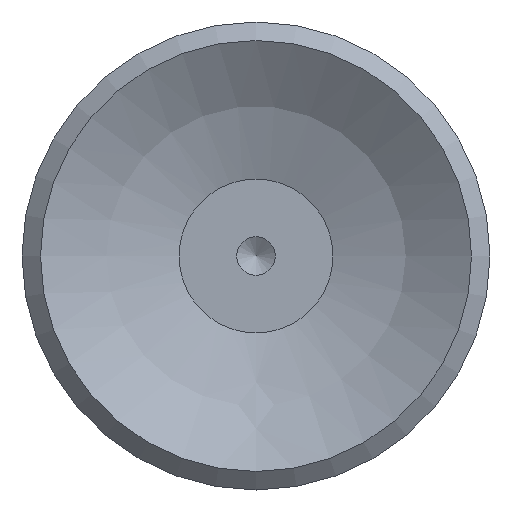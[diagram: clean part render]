
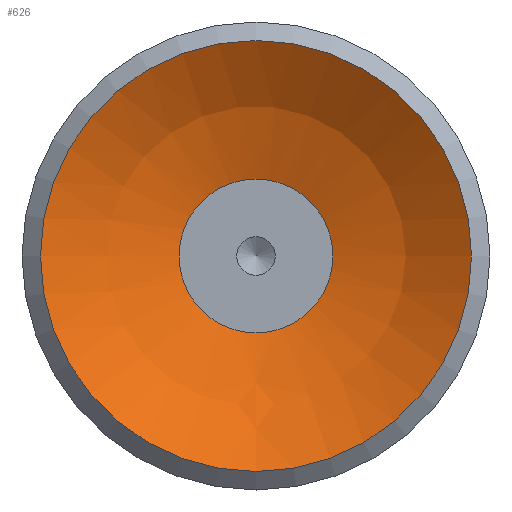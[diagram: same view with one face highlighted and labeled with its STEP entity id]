
A CAD part, front view. The second image highlights one B-rep face of the part: STEP entity #626.
In plain terms, the highlighted spherical face has radius 11.5 mm.
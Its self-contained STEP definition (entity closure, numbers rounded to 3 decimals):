
#626=ADVANCED_FACE('',(#1078,#1079),#1080,.F.);
#1078=FACE_OUTER_BOUND('',#1596,.T.);
#1079=FACE_OUTER_BOUND('',#1597,.T.);
#1080=SPHERICAL_SURFACE('',#1598,11.5);
#1596=EDGE_LOOP('',(#2870));
#1597=EDGE_LOOP('',(#2871));
#1598=AXIS2_PLACEMENT_3D('',#2872,#2873,#2874);
#2870=ORIENTED_EDGE('',*,*,#3550,.T.);
#2871=ORIENTED_EDGE('',*,*,#3551,.F.);
#2872=CARTESIAN_POINT('',(0.001,9.494,-22.735));
#2873=DIRECTION('',(0.0,0.,-1.0));
#2874=DIRECTION('',(1.0,0.0,0.0));
#3550=EDGE_CURVE('',#4236,#4236,#4237,.T.);
#3551=EDGE_CURVE('',#4238,#4238,#4239,.T.);
#4236=VERTEX_POINT('',#5989);
#4237=CIRCLE('',#5990,7.0);
#4238=VERTEX_POINT('',#5991);
#4239=CIRCLE('',#5992,2.5);
#5989=CARTESIAN_POINT('',(0.001,16.494,-13.611));
#5990=AXIS2_PLACEMENT_3D('',#6700,#6701,#6702);
#5991=CARTESIAN_POINT('',(0.001,11.994,-11.51));
#5992=AXIS2_PLACEMENT_3D('',#6703,#6704,#6705);
#6700=CARTESIAN_POINT('',(0.001,9.494,-13.611));
#6701=DIRECTION('',(0.0,0.,-1.0));
#6702=DIRECTION('',(0.0,1.0,0.));
#6703=CARTESIAN_POINT('',(0.001,9.494,-11.51));
#6704=DIRECTION('',(0.0,0.,-1.0));
#6705=DIRECTION('',(0.0,1.0,0.));
